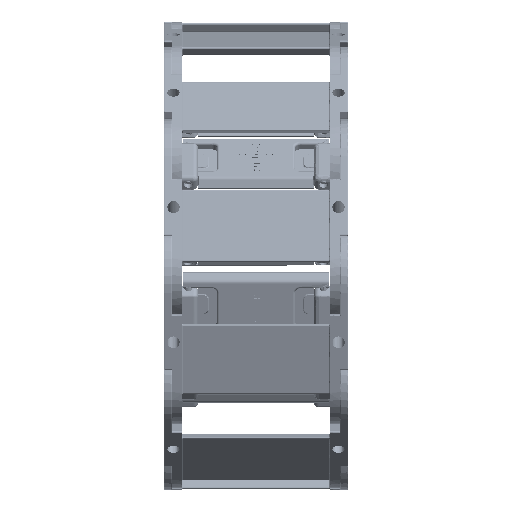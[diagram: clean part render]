
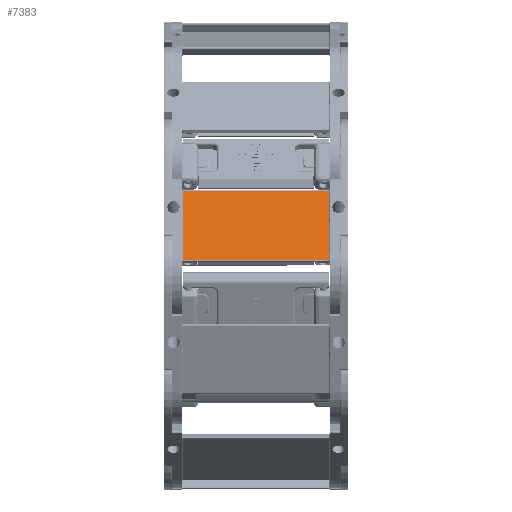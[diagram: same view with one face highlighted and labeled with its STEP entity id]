
A CAD part, front view. The second image highlights one B-rep face of the part: STEP entity #7383.
In plain terms, the highlighted planar face has unit normal (0, -0.967, 0.255) as drawn and (0.132, 0, 0.991) by its records, which use the part's own axes.
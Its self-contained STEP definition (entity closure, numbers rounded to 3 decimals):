
#292=CARTESIAN_POINT('',(47.817,8.875,146.031));
#293=VERTEX_POINT('',#292);
#310=CARTESIAN_POINT('',(76.561,8.875,142.19));
#311=VERTEX_POINT('',#310);
#319=CARTESIAN_POINT('',(47.817,8.875,146.031));
#320=DIRECTION('',(0.991,0.,-0.132));
#321=VECTOR('',#320,29.);
#322=LINE('',#319,#321);
#323=EDGE_CURVE('',#293,#311,#322,.T.);
#7234=CARTESIAN_POINT('',(76.561,67.875,142.19));
#7235=VERTEX_POINT('',#7234);
#7243=CARTESIAN_POINT('',(76.561,67.875,142.19));
#7244=DIRECTION('',(0.0,-1.0,0.0));
#7245=VECTOR('',#7244,59.);
#7246=LINE('',#7243,#7245);
#7247=EDGE_CURVE('',#7235,#311,#7246,.T.);
#7360=CARTESIAN_POINT('',(77.58,20.375,142.054));
#7361=DIRECTION('',(0.132,0.,0.991));
#7362=DIRECTION('',(0.0,1.0,0.0));
#7363=AXIS2_PLACEMENT_3D('',#7360,#7361,#7362);
#7364=PLANE('',#7363);
#7365=ORIENTED_EDGE('',*,*,#7247,.F.);
#7366=CARTESIAN_POINT('',(47.817,67.875,146.031));
#7367=VERTEX_POINT('',#7366);
#7368=CARTESIAN_POINT('',(47.817,67.875,146.031));
#7369=DIRECTION('',(0.991,0.,-0.132));
#7370=VECTOR('',#7369,29.);
#7371=LINE('',#7368,#7370);
#7372=EDGE_CURVE('',#7367,#7235,#7371,.T.);
#7373=ORIENTED_EDGE('',*,*,#7372,.F.);
#7374=CARTESIAN_POINT('',(47.817,8.875,146.031));
#7375=DIRECTION('',(0.0,1.0,0.0));
#7376=VECTOR('',#7375,59.);
#7377=LINE('',#7374,#7376);
#7378=EDGE_CURVE('',#293,#7367,#7377,.T.);
#7379=ORIENTED_EDGE('',*,*,#7378,.F.);
#7380=ORIENTED_EDGE('',*,*,#323,.T.);
#7381=EDGE_LOOP('',(#7365,#7373,#7379,#7380));
#7382=FACE_OUTER_BOUND('',#7381,.T.);
#7383=ADVANCED_FACE('',(#7382),#7364,.T.);
